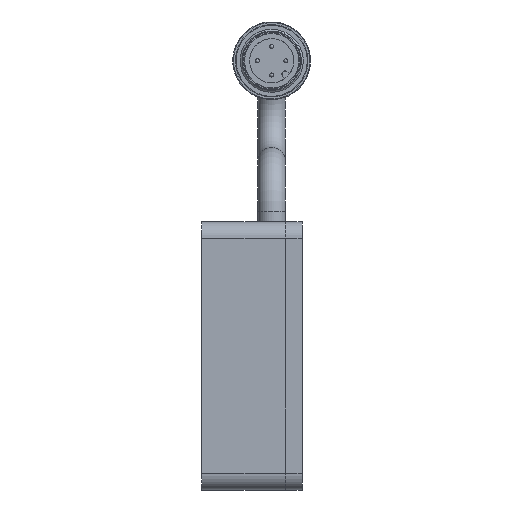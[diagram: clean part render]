
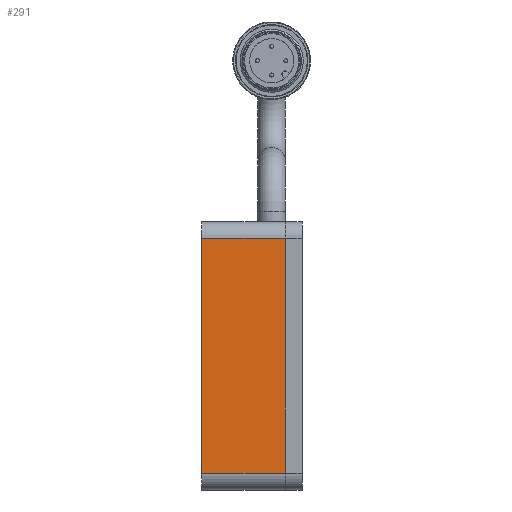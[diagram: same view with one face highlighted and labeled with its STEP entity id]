
A CAD part, left-side view. The second image highlights one B-rep face of the part: STEP entity #291.
In plain terms, the highlighted planar face has unit normal (-1, 0, 0).
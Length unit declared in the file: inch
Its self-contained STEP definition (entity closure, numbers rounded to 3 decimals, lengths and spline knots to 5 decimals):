
#71 = EDGE_CURVE ( 'NONE', #2941, #4064, #8048, .T. ) ;
#141 = VERTEX_POINT ( 'NONE', #7311 ) ;
#206 = VECTOR ( 'NONE', #795, 39.37008 ) ;
#291 = ADVANCED_FACE ( 'NONE', ( #8979 ), #8890, .F. ) ;
#608 = ORIENTED_EDGE ( 'NONE', *, *, #3618, .F. ) ;
#795 = DIRECTION ( 'NONE',  ( 0., -1., 0. ) ) ;
#825 = EDGE_CURVE ( 'NONE', #4026, #141, #1429, .T. ) ;
#1095 = EDGE_LOOP ( 'NONE', ( #608, #1173, #1759, #5538 ) ) ;
#1173 = ORIENTED_EDGE ( 'NONE', *, *, #825, .T. ) ;
#1268 = LINE ( 'NONE', #8412, #6591 ) ;
#1429 = LINE ( 'NONE', #7043, #206 ) ;
#1447 = CARTESIAN_POINT ( 'NONE',  ( -2.5, 0.3125, 0.875 ) ) ;
#1642 = CARTESIAN_POINT ( 'NONE',  ( -2.5, 0.3125, 0.875 ) ) ;
#1688 = DIRECTION ( 'NONE',  ( 0., 1., 0. ) ) ;
#1759 = ORIENTED_EDGE ( 'NONE', *, *, #2578, .T. ) ;
#2109 = DIRECTION ( 'NONE',  ( 0., 0., 1. ) ) ;
#2155 = CARTESIAN_POINT ( 'NONE',  ( -2.5, 0.3125, -0.875 ) ) ;
#2578 = EDGE_CURVE ( 'NONE', #141, #2941, #8186, .T. ) ;
#2941 = VERTEX_POINT ( 'NONE', #7835 ) ;
#3212 = CARTESIAN_POINT ( 'NONE',  ( -2.5, 0.3125, 1. ) ) ;
#3618 = EDGE_CURVE ( 'NONE', #4026, #4064, #1268, .T. ) ;
#4026 = VERTEX_POINT ( 'NONE', #2155 ) ;
#4064 = VERTEX_POINT ( 'NONE', #1447 ) ;
#4093 = CARTESIAN_POINT ( 'NONE',  ( -2.5, -0.3125, 1. ) ) ;
#4164 = VECTOR ( 'NONE', #1688, 39.37008 ) ;
#5538 = ORIENTED_EDGE ( 'NONE', *, *, #71, .T. ) ;
#6591 = VECTOR ( 'NONE', #2109, 39.37008 ) ;
#7043 = CARTESIAN_POINT ( 'NONE',  ( -2.5, 0.3125, -0.875 ) ) ;
#7311 = CARTESIAN_POINT ( 'NONE',  ( -2.5, -0.3125, -0.875 ) ) ;
#7373 = AXIS2_PLACEMENT_3D ( 'NONE', #3212, #7400, #7490 ) ;
#7400 = DIRECTION ( 'NONE',  ( 1., 0., 0. ) ) ;
#7490 = DIRECTION ( 'NONE',  ( 0., 0., -1. ) ) ;
#7835 = CARTESIAN_POINT ( 'NONE',  ( -2.5, -0.3125, 0.875 ) ) ;
#7965 = VECTOR ( 'NONE', #8933, 39.37008 ) ;
#8048 = LINE ( 'NONE', #1642, #4164 ) ;
#8186 = LINE ( 'NONE', #4093, #7965 ) ;
#8412 = CARTESIAN_POINT ( 'NONE',  ( -2.5, 0.3125, 1. ) ) ;
#8890 = PLANE ( 'NONE',  #7373 ) ;
#8933 = DIRECTION ( 'NONE',  ( 0., 0., 1. ) ) ;
#8979 = FACE_OUTER_BOUND ( 'NONE', #1095, .T. ) ;
